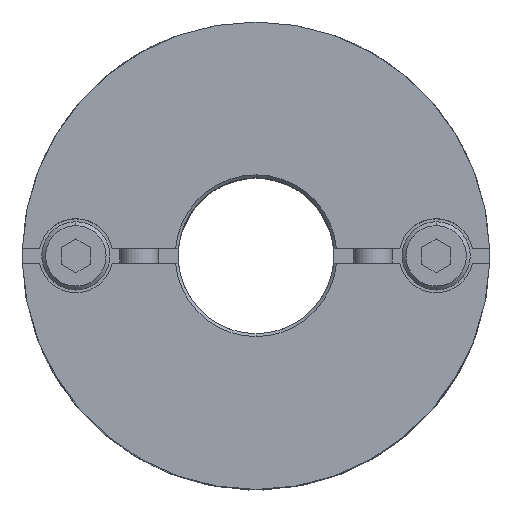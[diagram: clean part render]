
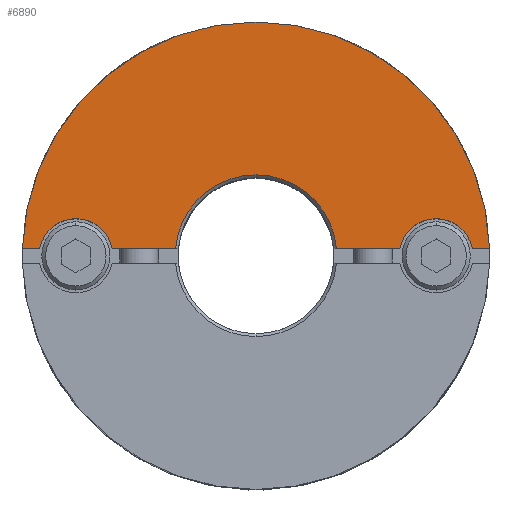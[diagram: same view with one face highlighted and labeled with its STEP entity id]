
A CAD part, top view. The second image highlights one B-rep face of the part: STEP entity #6890.
In plain terms, the highlighted planar face has unit normal (0, 0, 1).
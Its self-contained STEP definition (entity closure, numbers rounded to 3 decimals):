
#553=CARTESIAN_POINT('',(0.,8.3,19.3));
#554=VERTEX_POINT('',#553);
#563=CARTESIAN_POINT('',(-8.266,0.75,19.3));
#564=VERTEX_POINT('',#563);
#565=CARTESIAN_POINT('',(0.,0.,19.3));
#566=DIRECTION('',(0.0,0.0,1.0));
#567=DIRECTION('',(0.0,-1.0,0.0));
#568=AXIS2_PLACEMENT_3D('',#565,#566,#567);
#569=CIRCLE('',#568,8.3);
#570=EDGE_CURVE('',#554,#564,#569,.T.);
#742=CARTESIAN_POINT('',(0.,24.,19.3));
#743=VERTEX_POINT('',#742);
#827=CARTESIAN_POINT('',(-23.988,0.75,19.3));
#828=VERTEX_POINT('',#827);
#835=CARTESIAN_POINT('',(0.,0.,19.3));
#836=DIRECTION('',(0.0,0.0,-1.0));
#837=DIRECTION('',(0.0,1.0,0.0));
#838=AXIS2_PLACEMENT_3D('',#835,#836,#837);
#839=CIRCLE('',#838,24.0);
#840=EDGE_CURVE('',#828,#743,#839,.T.);
#1041=CARTESIAN_POINT('',(-18.5,3.8,19.3));
#1042=VERTEX_POINT('',#1041);
#1051=CARTESIAN_POINT('',(-22.225,0.75,19.3));
#1052=VERTEX_POINT('',#1051);
#1053=CARTESIAN_POINT('',(-18.5,0.,19.3));
#1054=DIRECTION('',(0.0,0.0,-1.0));
#1055=DIRECTION('',(0.0,1.0,0.0));
#1056=AXIS2_PLACEMENT_3D('',#1053,#1054,#1055);
#1057=CIRCLE('',#1056,3.8);
#1058=EDGE_CURVE('',#1052,#1042,#1057,.T.);
#1125=CARTESIAN_POINT('',(18.5,3.8,19.3));
#1126=VERTEX_POINT('',#1125);
#1135=CARTESIAN_POINT('',(14.775,0.75,19.3));
#1136=VERTEX_POINT('',#1135);
#1137=CARTESIAN_POINT('',(18.5,0.,19.3));
#1138=DIRECTION('',(0.0,0.0,-1.0));
#1139=DIRECTION('',(0.0,1.0,0.0));
#1140=AXIS2_PLACEMENT_3D('',#1137,#1138,#1139);
#1141=CIRCLE('',#1140,3.8);
#1142=EDGE_CURVE('',#1136,#1126,#1141,.T.);
#6566=CARTESIAN_POINT('',(22.225,0.75,19.3));
#6567=VERTEX_POINT('',#6566);
#6574=CARTESIAN_POINT('',(18.5,0.,19.3));
#6575=DIRECTION('',(0.0,0.0,-1.0));
#6576=DIRECTION('',(0.0,1.0,0.0));
#6577=AXIS2_PLACEMENT_3D('',#6574,#6575,#6576);
#6578=CIRCLE('',#6577,3.8);
#6579=EDGE_CURVE('',#1126,#6567,#6578,.T.);
#6632=CARTESIAN_POINT('',(-14.775,0.75,19.3));
#6633=VERTEX_POINT('',#6632);
#6640=CARTESIAN_POINT('',(-18.5,0.,19.3));
#6641=DIRECTION('',(0.0,0.0,-1.0));
#6642=DIRECTION('',(0.0,1.0,0.0));
#6643=AXIS2_PLACEMENT_3D('',#6640,#6641,#6642);
#6644=CIRCLE('',#6643,3.8);
#6645=EDGE_CURVE('',#1042,#6633,#6644,.T.);
#6664=CARTESIAN_POINT('',(23.988,0.75,19.3));
#6665=VERTEX_POINT('',#6664);
#6672=CARTESIAN_POINT('',(22.225,0.75,19.3));
#6673=DIRECTION('',(1.0,0.0,0.0));
#6674=VECTOR('',#6673,1.763);
#6675=LINE('',#6672,#6674);
#6676=EDGE_CURVE('',#6567,#6665,#6675,.T.);
#6687=CARTESIAN_POINT('',(8.266,0.75,19.3));
#6688=VERTEX_POINT('',#6687);
#6689=CARTESIAN_POINT('',(8.266,0.75,19.3));
#6690=DIRECTION('',(1.0,0.0,0.0));
#6691=VECTOR('',#6690,6.509);
#6692=LINE('',#6689,#6691);
#6693=EDGE_CURVE('',#6688,#1136,#6692,.T.);
#6849=CARTESIAN_POINT('',(0.,2.182,19.3));
#6850=DIRECTION('',(0.0,0.0,1.0));
#6851=DIRECTION('',(0.0,1.0,0.0));
#6852=AXIS2_PLACEMENT_3D('',#6849,#6850,#6851);
#6853=PLANE('',#6852);
#6854=ORIENTED_EDGE('',*,*,#1142,.T.);
#6855=ORIENTED_EDGE('',*,*,#6579,.T.);
#6856=ORIENTED_EDGE('',*,*,#6676,.T.);
#6857=CARTESIAN_POINT('',(0.,0.,19.3));
#6858=DIRECTION('',(0.0,0.0,-1.0));
#6859=DIRECTION('',(0.0,1.0,0.0));
#6860=AXIS2_PLACEMENT_3D('',#6857,#6858,#6859);
#6861=CIRCLE('',#6860,24.0);
#6862=EDGE_CURVE('',#743,#6665,#6861,.T.);
#6863=ORIENTED_EDGE('',*,*,#6862,.F.);
#6864=ORIENTED_EDGE('',*,*,#840,.F.);
#6865=CARTESIAN_POINT('',(-23.988,0.75,19.3));
#6866=DIRECTION('',(1.0,0.0,0.0));
#6867=VECTOR('',#6866,1.763);
#6868=LINE('',#6865,#6867);
#6869=EDGE_CURVE('',#828,#1052,#6868,.T.);
#6870=ORIENTED_EDGE('',*,*,#6869,.T.);
#6871=ORIENTED_EDGE('',*,*,#1058,.T.);
#6872=ORIENTED_EDGE('',*,*,#6645,.T.);
#6873=CARTESIAN_POINT('',(-14.775,0.75,19.3));
#6874=DIRECTION('',(1.0,0.0,0.0));
#6875=VECTOR('',#6874,6.509);
#6876=LINE('',#6873,#6875);
#6877=EDGE_CURVE('',#6633,#564,#6876,.T.);
#6878=ORIENTED_EDGE('',*,*,#6877,.T.);
#6879=ORIENTED_EDGE('',*,*,#570,.F.);
#6880=CARTESIAN_POINT('',(0.,0.,19.3));
#6881=DIRECTION('',(0.0,0.0,1.0));
#6882=DIRECTION('',(0.0,-1.0,0.0));
#6883=AXIS2_PLACEMENT_3D('',#6880,#6881,#6882);
#6884=CIRCLE('',#6883,8.3);
#6885=EDGE_CURVE('',#6688,#554,#6884,.T.);
#6886=ORIENTED_EDGE('',*,*,#6885,.F.);
#6887=ORIENTED_EDGE('',*,*,#6693,.T.);
#6888=EDGE_LOOP('',(#6854,#6855,#6856,#6863,#6864,#6870,#6871,#6872,#6878,#6879,#6886,#6887));
#6889=FACE_OUTER_BOUND('',#6888,.T.);
#6890=ADVANCED_FACE('',(#6889),#6853,.T.);
